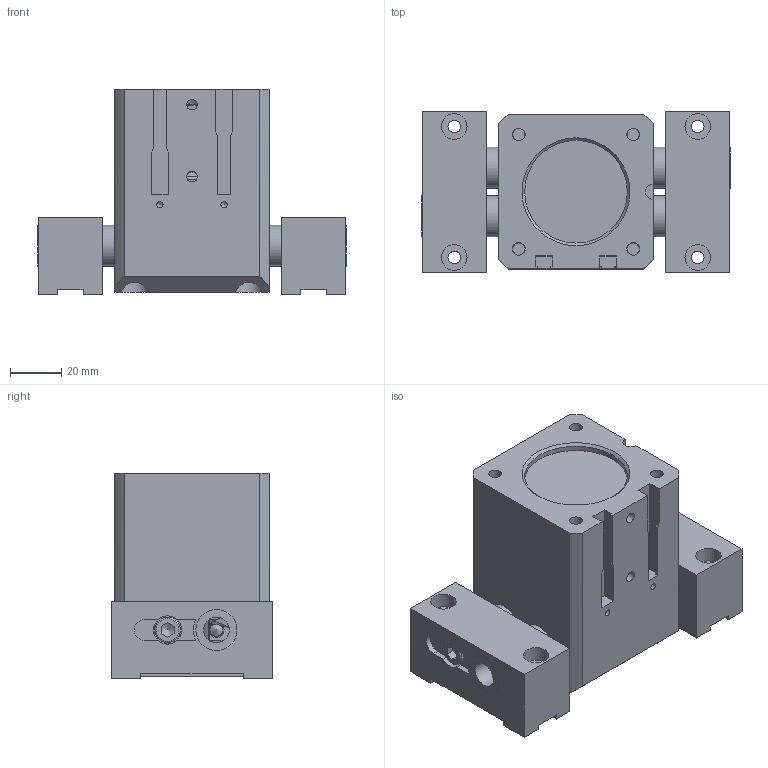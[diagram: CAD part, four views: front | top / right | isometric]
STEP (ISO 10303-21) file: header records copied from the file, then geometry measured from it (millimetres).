
FILE_DESCRIPTION((''),'2;1');
FILE_NAME('T:\CAD\Standard\Daten\3D-Datenbank\GP\4 - 3D-CAD-Daten GP 050-125\GP080\step-Daten\G-GP080-l1-GÖ+UB open.stp','2013-11-07T09:41:10',('Dirk'),(''),'Autodesk Inventor 2011','Autodesk Inventor 2011','');
FILE_SCHEMA(('AUTOMOTIVE_DESIGN { 1 0 10303 214 1 1 1 1 }'));
Length unit declared in the file: millimetre
Products named in the file (1): Bauteil7
Bounding box: 120.17 x 63 x 80 mm (x, y, z)
Volume: 309455.3 mm3; surface area: 91646.2 mm2
Topology: 2 solids, 19 shells, 417 faces, 1053 edges, 684 vertices
Faces by surface type: plane 240, cylinder 115, cone 34, torus 27, bspline 1
Full cylindrical faces by diameter (mm): 2.459 x2, 4.134 x2, 4.917 x8, 5 x2, 6 x6, 6.5 x4, 6.6 x2, 8.376 x1, 10 x13, 10.5 x1, 11 x8, 16 x6, 18 x7, 20 x2, 24.4 x2, 26 x2, 35 x1, 36 x2, 40 x2, 40.2 x2, 47.1 x2, 50 x6
Entity records: 12764 total; most frequent: CARTESIAN_POINT 3126, DIRECTION 1924, ORIENTED_EDGE 1682, EDGE_CURVE 841, AXIS2_PLACEMENT_3D 744, EDGE_LOOP 634, VERTEX_POINT 610, VECTOR 436
